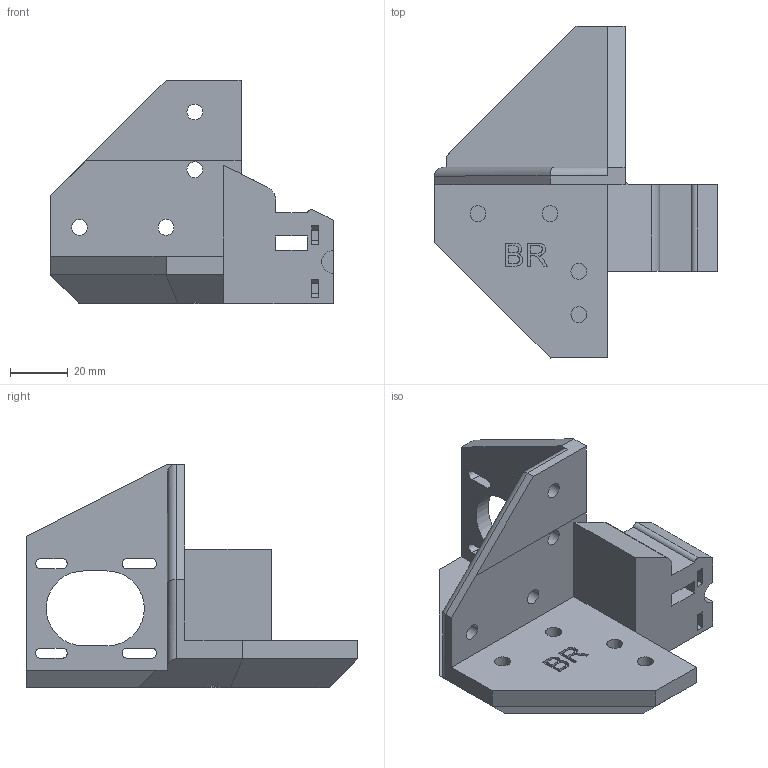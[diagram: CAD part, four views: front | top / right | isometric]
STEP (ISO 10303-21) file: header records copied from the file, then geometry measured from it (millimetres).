
FILE_DESCRIPTION(/* description */ (''),/* implementation_level */ '2;1');
FILE_NAME(/* name */ 'Stepper Mount BR x1 v3.step',/* time_stamp */ '2023-03-23T06:44:21-06:00',/* author */ (''),/* organization */ (''),/* preprocessor_version */ 'ST-DEVELOPER v19.2',/* originating_system */ 'Autodesk Translation Framework v11.17.0.187',/* authorisation */ '');
FILE_SCHEMA (('AUTOMOTIVE_DESIGN { 1 0 10303 214 3 1 1 }'));
Length unit declared in the file: millimetre
Products named in the file (2): Stepper Mount BR x1; BR Stepper Mount
Assembly tree (1 placements, depth 2):
  Stepper Mount BR x1
    BR Stepper Mount
Bounding box: 98 x 115.04 x 77.5 mm (x, y, z)
Volume: 125908.9 mm3; surface area: 35737.4 mm2
Topology: 1 solids, 1 shells, 165 faces, 443 edges, 293 vertices
Faces by surface type: plane 92, bspline 40, cylinder 33
Full cylindrical faces by diameter (mm): 3.5 x4, 5.5 x8, 11 x4
Entity records: 5623 total; most frequent: CARTESIAN_POINT 1584, ORIENTED_EDGE 886, DIRECTION 689, EDGE_CURVE 443, LINE 293, VECTOR 293, VERTEX_POINT 293, EDGE_LOOP 204
